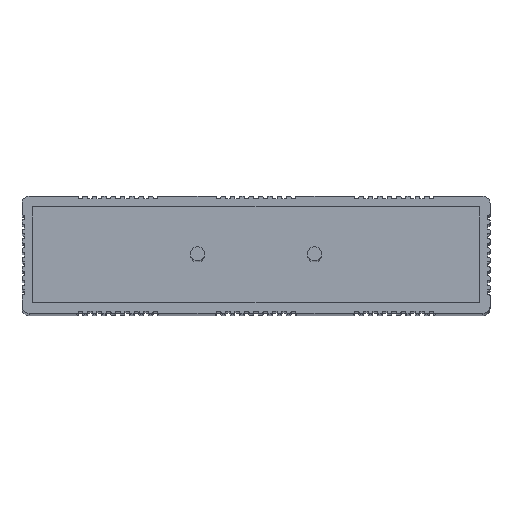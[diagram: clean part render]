
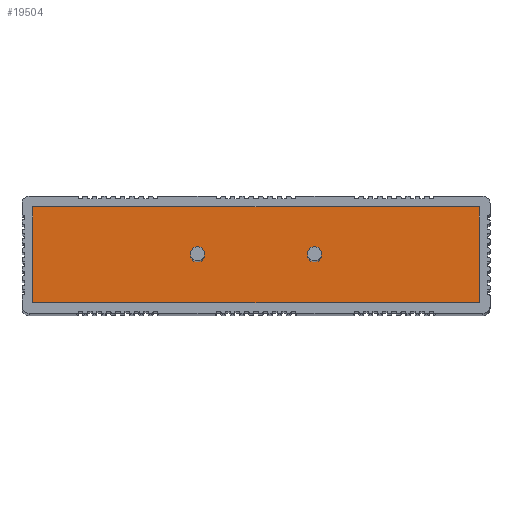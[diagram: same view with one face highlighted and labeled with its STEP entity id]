
A CAD part, top view. The second image highlights one B-rep face of the part: STEP entity #19504.
In plain terms, the highlighted planar face has unit normal (0, 0, 1).
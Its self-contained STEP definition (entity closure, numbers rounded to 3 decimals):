
#50 = EDGE_CURVE ( 'NONE', #7734, #9312, #55, .T. ) ;
#55 = LINE ( 'NONE', #26618, #5722 ) ;
#892 = CARTESIAN_POINT ( 'NONE',  ( -95.5, -20.5, 255. ) ) ;
#962 = CARTESIAN_POINT ( 'NONE',  ( 95.5, -20.5, 255. ) ) ;
#1225 = DIRECTION ( 'NONE',  ( -1., 0., 0. ) ) ;
#1296 = EDGE_LOOP ( 'NONE', ( #13473, #5549, #18298, #11723 ) ) ;
#1896 = PLANE ( 'NONE',  #23313 ) ;
#2871 = AXIS2_PLACEMENT_3D ( 'NONE', #9527, #18447, #1225 ) ;
#4861 = AXIS2_PLACEMENT_3D ( 'NONE', #5729, #25890, #18726 ) ;
#5549 = ORIENTED_EDGE ( 'NONE', *, *, #7344, .F. ) ;
#5678 = DIRECTION ( 'NONE',  ( 0., 1., 0. ) ) ;
#5722 = VECTOR ( 'NONE', #6604, 1000. ) ;
#5729 = CARTESIAN_POINT ( 'NONE',  ( 25., 0., 255. ) ) ;
#6044 = ORIENTED_EDGE ( 'NONE', *, *, #15065, .T. ) ;
#6155 = CARTESIAN_POINT ( 'NONE',  ( -95.5, -20.5, 255. ) ) ;
#6604 = DIRECTION ( 'NONE',  ( 1., 0., 0. ) ) ;
#6843 = AXIS2_PLACEMENT_3D ( 'NONE', #16732, #18933, #27971 ) ;
#7344 = EDGE_CURVE ( 'NONE', #8898, #28588, #8128, .T. ) ;
#7734 = VERTEX_POINT ( 'NONE', #25756 ) ;
#8128 = LINE ( 'NONE', #14834, #13453 ) ;
#8454 = DIRECTION ( 'NONE',  ( 0., 0., 1. ) ) ;
#8898 = VERTEX_POINT ( 'NONE', #962 ) ;
#9312 = VERTEX_POINT ( 'NONE', #21496 ) ;
#9527 = CARTESIAN_POINT ( 'NONE',  ( -25., 0., 255. ) ) ;
#9641 = EDGE_CURVE ( 'NONE', #28588, #7734, #25263, .T. ) ;
#10083 = ORIENTED_EDGE ( 'NONE', *, *, #27168, .T. ) ;
#10266 = VERTEX_POINT ( 'NONE', #13322 ) ;
#10792 = CARTESIAN_POINT ( 'NONE',  ( -28., 0., 255. ) ) ;
#10813 = VECTOR ( 'NONE', #5678, 1000. ) ;
#11155 = LINE ( 'NONE', #20084, #17901 ) ;
#11723 = ORIENTED_EDGE ( 'NONE', *, *, #50, .F. ) ;
#13322 = CARTESIAN_POINT ( 'NONE',  ( 22., 0., 255. ) ) ;
#13354 = EDGE_CURVE ( 'NONE', #23874, #10266, #17461, .T. ) ;
#13453 = VECTOR ( 'NONE', #23750, 1000. ) ;
#13473 = ORIENTED_EDGE ( 'NONE', *, *, #9641, .F. ) ;
#14834 = CARTESIAN_POINT ( 'NONE',  ( 95.5, -20.5, 255. ) ) ;
#14887 = DIRECTION ( 'NONE',  ( 1., 0., 0. ) ) ;
#15065 = EDGE_CURVE ( 'NONE', #18193, #15669, #26435, .T. ) ;
#15369 = EDGE_LOOP ( 'NONE', ( #10083, #6044 ) ) ;
#15449 = FACE_OUTER_BOUND ( 'NONE', #1296, .T. ) ;
#15669 = VERTEX_POINT ( 'NONE', #10792 ) ;
#15896 = CIRCLE ( 'NONE', #2871, 3. ) ;
#16337 = EDGE_LOOP ( 'NONE', ( #22176, #26057 ) ) ;
#16732 = CARTESIAN_POINT ( 'NONE',  ( -25., 0., 255. ) ) ;
#17461 = CIRCLE ( 'NONE', #4861, 3. ) ;
#17524 = CARTESIAN_POINT ( 'NONE',  ( 0., 0., 255. ) ) ;
#17659 = FACE_BOUND ( 'NONE', #15369, .T. ) ;
#17901 = VECTOR ( 'NONE', #25193, 1000. ) ;
#18132 = CARTESIAN_POINT ( 'NONE',  ( -22., 0., 255. ) ) ;
#18193 = VERTEX_POINT ( 'NONE', #18132 ) ;
#18298 = ORIENTED_EDGE ( 'NONE', *, *, #26766, .F. ) ;
#18447 = DIRECTION ( 'NONE',  ( 0., 0., -1. ) ) ;
#18599 = CARTESIAN_POINT ( 'NONE',  ( 25., 0., 255. ) ) ;
#18726 = DIRECTION ( 'NONE',  ( -1., 0., 0. ) ) ;
#18933 = DIRECTION ( 'NONE',  ( 0., 0., -1. ) ) ;
#19504 = ADVANCED_FACE ( 'NONE', ( #15449, #17659, #26555 ), #1896, .T. ) ;
#20084 = CARTESIAN_POINT ( 'NONE',  ( 95.5, -20.5, 255. ) ) ;
#21037 = AXIS2_PLACEMENT_3D ( 'NONE', #18599, #27503, #21517 ) ;
#21496 = CARTESIAN_POINT ( 'NONE',  ( 95.5, 20.5, 255. ) ) ;
#21517 = DIRECTION ( 'NONE',  ( -1., 0., 0. ) ) ;
#21812 = EDGE_CURVE ( 'NONE', #10266, #23874, #22422, .T. ) ;
#22176 = ORIENTED_EDGE ( 'NONE', *, *, #21812, .T. ) ;
#22422 = CIRCLE ( 'NONE', #21037, 3. ) ;
#23313 = AXIS2_PLACEMENT_3D ( 'NONE', #17524, #8454, #14887 ) ;
#23750 = DIRECTION ( 'NONE',  ( -1., 0., 0. ) ) ;
#23874 = VERTEX_POINT ( 'NONE', #27983 ) ;
#25193 = DIRECTION ( 'NONE',  ( 0., -1., 0. ) ) ;
#25263 = LINE ( 'NONE', #892, #10813 ) ;
#25756 = CARTESIAN_POINT ( 'NONE',  ( -95.5, 20.5, 255. ) ) ;
#25890 = DIRECTION ( 'NONE',  ( 0., 0., -1. ) ) ;
#26057 = ORIENTED_EDGE ( 'NONE', *, *, #13354, .T. ) ;
#26435 = CIRCLE ( 'NONE', #6843, 3. ) ;
#26555 = FACE_BOUND ( 'NONE', #16337, .T. ) ;
#26618 = CARTESIAN_POINT ( 'NONE',  ( 95.5, 20.5, 255. ) ) ;
#26766 = EDGE_CURVE ( 'NONE', #9312, #8898, #11155, .T. ) ;
#27168 = EDGE_CURVE ( 'NONE', #15669, #18193, #15896, .T. ) ;
#27503 = DIRECTION ( 'NONE',  ( 0., 0., -1. ) ) ;
#27971 = DIRECTION ( 'NONE',  ( -1., 0., 0. ) ) ;
#27983 = CARTESIAN_POINT ( 'NONE',  ( 28., 0., 255. ) ) ;
#28588 = VERTEX_POINT ( 'NONE', #6155 ) ;
